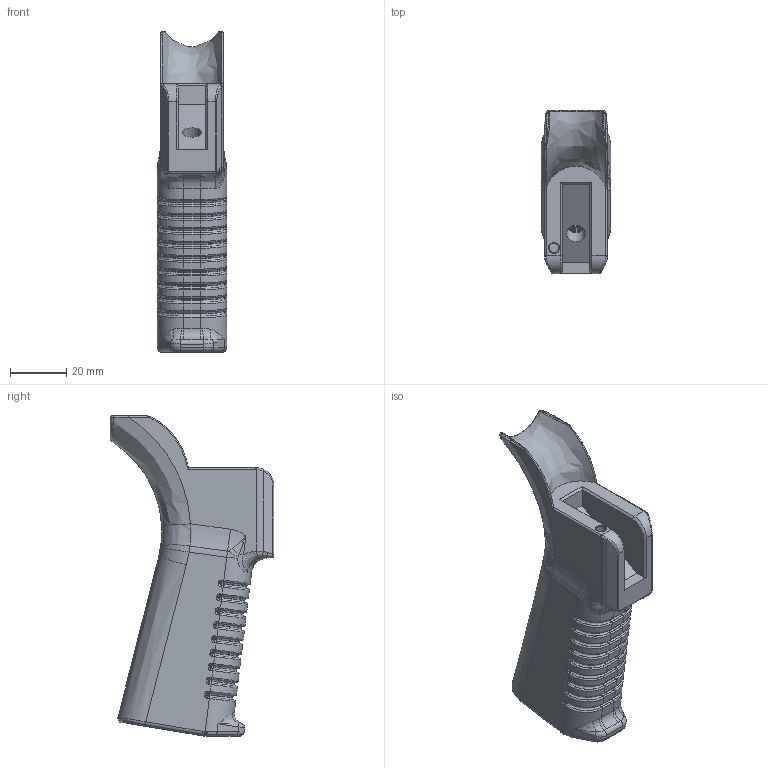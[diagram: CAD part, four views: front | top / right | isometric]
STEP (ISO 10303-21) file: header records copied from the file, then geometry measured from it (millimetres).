
FILE_DESCRIPTION(/* description */ (''),/* implementation_level */ '2;1');
FILE_NAME(/* name */ 'C:/Users/FFFTechnology/3D Objects/The Bad Stuff/To Be Released/AWCY Laffs Grip Pack/STP/Grip 2.step',/* time_stamp */ '2021-10-28T08:42:39-04:00',/* author */ (''),/* organization */ (''),/* preprocessor_version */ 'ST-DEVELOPER v18.1',/* originating_system */ 'Autodesk Translation Framework v10.10.0.1391',/* authorisation */ '');
FILE_SCHEMA (('AUTOMOTIVE_DESIGN { 1 0 10303 214 3 1 1 }'));
Products named in the file (1): Grip 2
Bounding box: 24.83 x 58.4 x 114.41 mm (x, y, z)
Volume: 48307.6 mm3; surface area: 21940.4 mm2
Topology: 1 solids, 1 shells, 1188 faces, 2952 edges, 1727 vertices
Faces by surface type: bspline 478, cylinder 342, torus 175, plane 160, sphere 22, cone 11
Full cylindrical faces by diameter (mm): 3.4 x1, 6.8 x1, 11.616 x1, 13.416 x1
Entity records: 49137 total; most frequent: CARTESIAN_POINT 23484, ORIENTED_EDGE 5800, DIRECTION 4671, EDGE_CURVE 2900, AXIS2_PLACEMENT_3D 1801, VERTEX_POINT 1727, EDGE_LOOP 1203, FACE_OUTER_BOUND 1188
